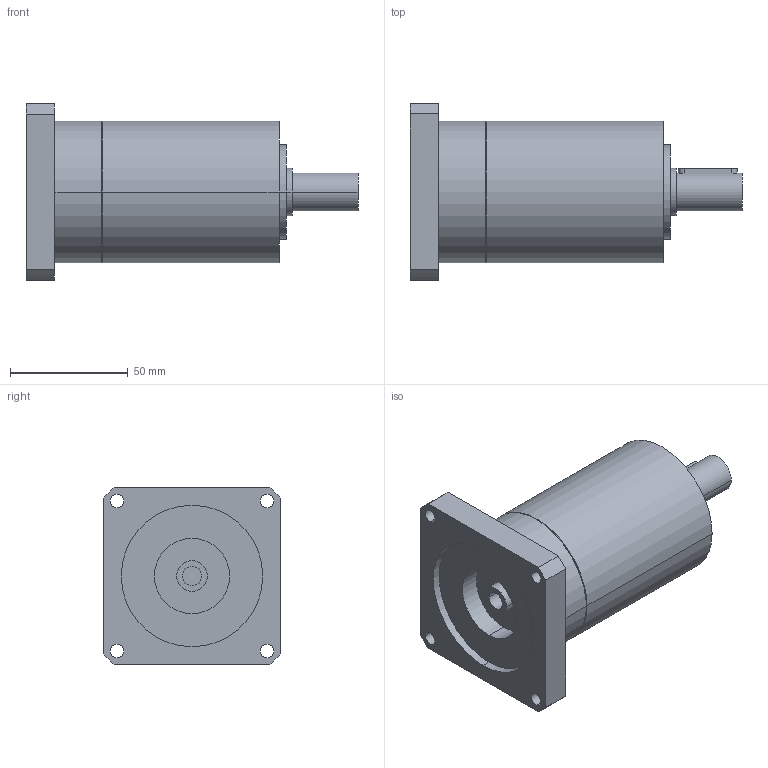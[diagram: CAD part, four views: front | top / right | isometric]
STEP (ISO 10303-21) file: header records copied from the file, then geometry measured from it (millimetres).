
FILE_DESCRIPTION(('CoCreate Modeling STEP Export'),'2;1');
FILE_NAME('GPR75_ig-9-12-16-20-24-30-36_16_B14_8_P15.stp','2014-08-25T16:06:02',(''),(''),'CoCreate Modeling STEP processor for AP214 (Solid Model)','CoCreate Modeling 16.00C 25-Feb-2009 (C) Parametric Technology GmbH','');
FILE_SCHEMA(('AUTOMOTIVE_DESIGN { 1 0 10303 214 1 1 1 1 }'));
Length unit declared in the file: millimetre
Products named in the file (2): GPR75_ig-9-12-16-20-24-30-36_16_B14_8_P15
Assembly tree (1 placements, depth 2):
  GPR75_ig-9-12-16-20-24-30-36_16_B14_8_P15
    GPR75_ig-9-12-16-20-24-30-36_16_B14_8_P15
Bounding box: 140.9 x 75 x 75 mm (x, y, z)
Volume: 327854.3 mm3; surface area: 38515 mm2
Topology: 1 solids, 1 shells, 70 faces, 189 edges, 133 vertices
Faces by surface type: cylinder 42, plane 22, cone 6
Entity records: 1944 total; most frequent: ORIENTED_EDGE 374, CARTESIAN_POINT 361, DIRECTION 262, EDGE_CURVE 187, VERTEX_POINT 133, AXIS2_PLACEMENT_3D 98, EDGE_LOOP 92, FACE_OUTER_BOUND 70
